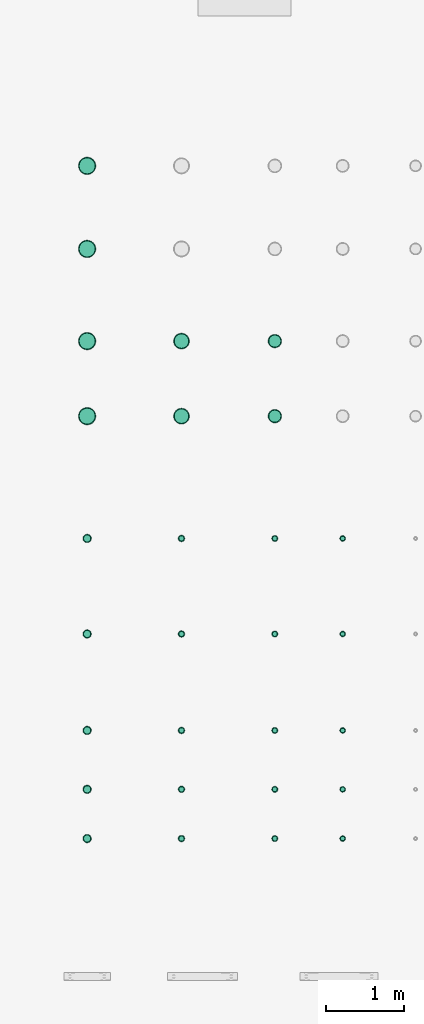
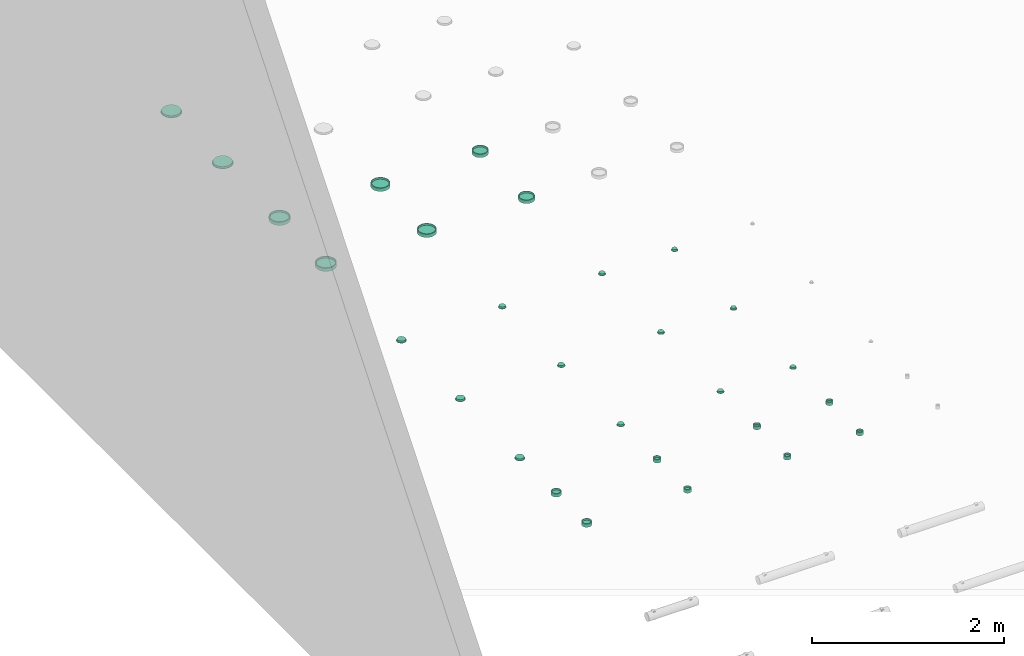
# One storey, part 17 of 197: 28 flow terminals.
"""IFC2X3 building model written with IfcOpenShell, lengths in metres."""

from ifc_helpers import new_model, entity, si_unit, converted_unit, direction, frame, frame_2d, origin, place, context, subcontext, project, spatial, circle, hollow_circle, extrude, source, transform, mapped, material, type_object, type_shapes, element, save


model = new_model("IFC2X3")

# Units and contexts
model_context = context("Model", 3, precision=1e-05, world=origin(), true_north=direction((6.123031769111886e-17, 1.0)))
body_context = subcontext(model_context, "Body", "Model", "MODEL_VIEW")
ifc_project = project(units=[si_unit("LENGTHUNIT", "METRE"), converted_unit("PLANEANGLEUNIT", "DEGREE", entity("IfcPlaneAngleMeasure", 0.017453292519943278), si_unit("PLANEANGLEUNIT", "RADIAN"), dimensions=[0, 0, 0, 0, 0, 0, 0]), si_unit("AREAUNIT", "SQUARE_METRE")], contexts=[model_context])

# Site, building, storey
site_placement = place(None, origin())
site = spatial("IfcSite", under=ifc_project, at=site_placement, Name="Default", CompositionType="ELEMENT")
building_placement = place(site_placement, origin())
building = spatial("IfcBuilding", under=site, at=building_placement, CompositionType="ELEMENT")
storey_placement = place(building_placement, origin())
storey = spatial("IfcBuildingStorey", under=building, at=storey_placement, Name="Niveau 0", CompositionType="ELEMENT", Elevation=0.0)

# Flow terminals
ifc_material = material(Name="<Unnamed>")
light_fixture_type_1 = type_object("IfcLightFixtureType", Name="Downlight encastré_saillie:ENCASTRE - Ø225", PredefinedType="NOTDEFINED", material=ifc_material)
shared_shape_1 = source(origin(), body_context, "Body", "SweptSolid", [
    extrude(hollow_circle(Radius=0.11249999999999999, WallThickness=0.009999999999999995, at=frame_2d((-1.6081382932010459e-18, -2.06728782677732e-16), x_axis=(1.0, 0.0))), frame((0.0, 0.0, 1.499), z_axis=(0.0, 0.0, 1.0), x_axis=(-1.0, 0.0, 0.0)), (0.0, 0.0, 1.0), 0.0010000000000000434),
    extrude(circle(Radius=0.1025, at=frame_2d((1.6081382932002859e-18, -1.6559331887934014e-16), x_axis=(1.0, 0.0))), frame((0.0, 0.0, 1.5000000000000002)), (0.0, 0.0, 1.0), 0.020000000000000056),
])
type_shapes(light_fixture_type_1, [shared_shape_1])
flow_terminal_1_placement = place(storey_placement, frame((-538.0227105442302, 32.229355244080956, 0.0)))
element("IfcFlowTerminal", 1, at=flow_terminal_1_placement, inside=storey, type_object=light_fixture_type_1, material=ifc_material, Name="Downlight encastré_saillie:ENCASTRE - Ø225", ObjectType="Downlight encastré_saillie:ENCASTRE - Ø225", context=body_context, shape_type="MappedRepresentation", body=[
    mapped(shared_shape_1, transform((0.0, 0.0, 0.0), scale=1.0)),
])
light_fixture_type_2 = type_object("IfcLightFixtureType", Name="Downlight encastré_saillie:ENCASTRE DALI - Ø225", PredefinedType="NOTDEFINED", material=ifc_material)
shared_shape_2 = source(origin(), body_context, "Body", "SweptSolid", [
    extrude(hollow_circle(Radius=0.11249999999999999, WallThickness=0.009999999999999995, at=frame_2d((-1.6081382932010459e-18, -2.06728782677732e-16), x_axis=(1.0, 0.0))), frame((0.0, 0.0, 1.499), z_axis=(0.0, 0.0, 1.0), x_axis=(-1.0, 0.0, 0.0)), (0.0, 0.0, 1.0), 0.0010000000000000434),
    extrude(circle(Radius=0.1025, at=frame_2d((1.6081382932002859e-18, -1.6559331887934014e-16), x_axis=(1.0, 0.0))), frame((0.0, 0.0, 1.5000000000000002)), (0.0, 0.0, 1.0), 0.020000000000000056),
])
type_shapes(light_fixture_type_2, [shared_shape_2])
flow_terminal_2_placement = place(storey_placement, frame((-538.0227105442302, 31.16135524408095, 0.0)))
element("IfcFlowTerminal", 2, at=flow_terminal_2_placement, inside=storey, type_object=light_fixture_type_2, material=ifc_material, Name="Downlight encastré_saillie:ENCASTRE DALI - Ø225", ObjectType="Downlight encastré_saillie:ENCASTRE DALI - Ø225", context=body_context, shape_type="MappedRepresentation", body=[
    mapped(shared_shape_2, transform((0.0, 0.0, 0.0), scale=1.0)),
])
light_fixture_type_3 = type_object("IfcLightFixtureType", Name="Spot encastré_saillie:ENCASTRE - Ø111", PredefinedType="NOTDEFINED", material=ifc_material)
shared_shape_3 = source(origin(), body_context, "Body", "SweptSolid", [
    extrude(hollow_circle(Radius=0.0555, WallThickness=0.009999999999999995, at=frame_2d((-1.6081382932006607e-18, -1.019861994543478e-16), x_axis=(1.0, 0.0))), frame((0.0, 0.0, 1.499), z_axis=(0.0, 0.0, 1.0), x_axis=(-1.0, 0.0, 0.0)), (0.0, 0.0, 1.0), 0.0010000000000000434),
    extrude(circle(Radius=0.045500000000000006, at=frame_2d((1.6081382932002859e-18, -7.35072781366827e-17), x_axis=(1.0, 0.0))), frame((0.0, 0.0, 1.5000000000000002)), (0.0, 0.0, 1.0), 0.020000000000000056),
])
type_shapes(light_fixture_type_3, [shared_shape_3])
flow_terminal_3_placement = place(storey_placement, frame((-538.0227105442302, 27.439355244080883, 0.0)))
element("IfcFlowTerminal", 3, at=flow_terminal_3_placement, inside=storey, type_object=light_fixture_type_3, material=ifc_material, Name="Spot encastré_saillie:ENCASTRE - Ø111", ObjectType="Spot encastré_saillie:ENCASTRE - Ø111", context=body_context, shape_type="MappedRepresentation", body=[
    mapped(shared_shape_3, transform((0.0, 0.0, 0.0), scale=1.0)),
])
light_fixture_type_4 = type_object("IfcLightFixtureType", Name="Spot encastré_saillie:ENCASTRE - Ø86", PredefinedType="NOTDEFINED", material=ifc_material)
shared_shape_4 = source(origin(), body_context, "Body", "SweptSolid", [
    extrude(hollow_circle(Radius=0.043000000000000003, WallThickness=0.010000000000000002, at=frame_2d((-1.6081382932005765e-18, -7.901633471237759e-17), x_axis=(1.0, 0.0))), frame((0.0, 0.0, 1.499), z_axis=(0.0, 0.0, 1.0), x_axis=(-1.0, 0.0, 0.0)), (0.0, 0.0, 1.0), 0.0010000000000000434),
    extrude(circle(Radius=0.033, at=frame_2d((1.6081382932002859e-18, -5.3312970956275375e-17), x_axis=(1.0, 0.0))), frame((0.0, 0.0, 1.5000000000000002)), (0.0, 0.0, 1.0), 0.020000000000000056),
])
type_shapes(light_fixture_type_4, [shared_shape_4])
flow_terminal_4_placement = place(storey_placement, frame((-536.8097105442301, 27.439355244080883, 0.0)))
element("IfcFlowTerminal", 4, at=flow_terminal_4_placement, inside=storey, type_object=light_fixture_type_4, material=ifc_material, Name="Spot encastré_saillie:ENCASTRE - Ø86", ObjectType="Spot encastré_saillie:ENCASTRE - Ø86", context=body_context, shape_type="MappedRepresentation", body=[
    mapped(shared_shape_4, transform((0.0, 0.0, 0.0), scale=1.0)),
])
light_fixture_type_5 = type_object("IfcLightFixtureType", Name="Spot encastré_saillie:ENCASTRE - Ø81", PredefinedType="NOTDEFINED", material=ifc_material)
shared_shape_5 = source(origin(), body_context, "Body", "SweptSolid", [
    extrude(hollow_circle(Radius=0.040499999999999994, WallThickness=0.009999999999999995, at=frame_2d((-1.6081382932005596e-18, -7.442236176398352e-17), x_axis=(1.0, 0.0))), frame((0.0, 0.0, 1.499), z_axis=(0.0, 0.0, 1.0), x_axis=(-1.0, 0.0, 0.0)), (0.0, 0.0, 1.0), 0.0010000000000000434),
    extrude(circle(Radius=0.0305, at=frame_2d((1.6081382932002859e-18, -4.92741095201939e-17), x_axis=(1.0, 0.0))), frame((0.0, 0.0, 1.5000000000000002)), (0.0, 0.0, 1.0), 0.020000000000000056),
])
type_shapes(light_fixture_type_5, [shared_shape_5])
flow_terminal_5_placement = place(storey_placement, frame((-535.6097105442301, 27.439355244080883, 0.0)))
element("IfcFlowTerminal", 5, at=flow_terminal_5_placement, inside=storey, type_object=light_fixture_type_5, material=ifc_material, Name="Spot encastré_saillie:ENCASTRE - Ø81", ObjectType="Spot encastré_saillie:ENCASTRE - Ø81", context=body_context, shape_type="MappedRepresentation", body=[
    mapped(shared_shape_5, transform((0.0, 0.0, 0.0), scale=1.0)),
])
light_fixture_type_6 = type_object("IfcLightFixtureType", Name="Spot encastré_saillie:ENCASTRE - Ø76", PredefinedType="NOTDEFINED", material=ifc_material)
shared_shape_6 = source(origin(), body_context, "Body", "SweptSolid", [
    extrude(hollow_circle(Radius=0.03799999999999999, WallThickness=0.009999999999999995, at=frame_2d((-1.6081382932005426e-18, -6.982838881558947e-17), x_axis=(1.0, 0.0))), frame((0.0, 0.0, 1.499), z_axis=(0.0, 0.0, 1.0), x_axis=(-1.0, 0.0, 0.0)), (0.0, 0.0, 1.0), 0.0010000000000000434),
    extrude(circle(Radius=0.028, at=frame_2d((1.6081382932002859e-18, -4.523524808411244e-17), x_axis=(1.0, 0.0))), frame((0.0, 0.0, 1.5000000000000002)), (0.0, 0.0, 1.0), 0.020000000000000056),
])
type_shapes(light_fixture_type_6, [shared_shape_6])
flow_terminal_6_placement = place(storey_placement, frame((-534.7377105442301, 27.439355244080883, 0.0)))
element("IfcFlowTerminal", 6, at=flow_terminal_6_placement, inside=storey, type_object=light_fixture_type_6, material=ifc_material, Name="Spot encastré_saillie:ENCASTRE - Ø76", ObjectType="Spot encastré_saillie:ENCASTRE - Ø76", context=body_context, shape_type="MappedRepresentation", body=[
    mapped(shared_shape_6, transform((0.0, 0.0, 0.0), scale=1.0)),
])
light_fixture_type_7 = type_object("IfcLightFixtureType", Name="Spot encastré_saillie:ENCASTRE DALI - Ø111", PredefinedType="NOTDEFINED", material=ifc_material)
shared_shape_7 = source(origin(), body_context, "Body", "SweptSolid", [
    extrude(hollow_circle(Radius=0.0555, WallThickness=0.009999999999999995, at=frame_2d((-1.6081382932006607e-18, -1.019861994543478e-16), x_axis=(1.0, 0.0))), frame((0.0, 0.0, 1.499), z_axis=(0.0, 0.0, 1.0), x_axis=(-1.0, 0.0, 0.0)), (0.0, 0.0, 1.0), 0.0010000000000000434),
    extrude(circle(Radius=0.045500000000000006, at=frame_2d((1.6081382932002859e-18, -7.35072781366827e-17), x_axis=(1.0, 0.0))), frame((0.0, 0.0, 1.5000000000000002)), (0.0, 0.0, 1.0), 0.020000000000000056),
])
type_shapes(light_fixture_type_7, [shared_shape_7])
flow_terminal_7_placement = place(storey_placement, frame((-538.0227105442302, 26.211355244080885, 0.0)))
element("IfcFlowTerminal", 7, at=flow_terminal_7_placement, inside=storey, type_object=light_fixture_type_7, material=ifc_material, Name="Spot encastré_saillie:ENCASTRE DALI - Ø111", ObjectType="Spot encastré_saillie:ENCASTRE DALI - Ø111", context=body_context, shape_type="MappedRepresentation", body=[
    mapped(shared_shape_7, transform((0.0, 0.0, 0.0), scale=1.0)),
])
light_fixture_type_8 = type_object("IfcLightFixtureType", Name="Spot encastré_saillie:ENCASTRE DALI - Ø86", PredefinedType="NOTDEFINED", material=ifc_material)
shared_shape_8 = source(origin(), body_context, "Body", "SweptSolid", [
    extrude(hollow_circle(Radius=0.043000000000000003, WallThickness=0.010000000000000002, at=frame_2d((-1.6081382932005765e-18, -7.901633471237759e-17), x_axis=(1.0, 0.0))), frame((0.0, 0.0, 1.499), z_axis=(0.0, 0.0, 1.0), x_axis=(-1.0, 0.0, 0.0)), (0.0, 0.0, 1.0), 0.0010000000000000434),
    extrude(circle(Radius=0.033, at=frame_2d((1.6081382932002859e-18, -5.3312970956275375e-17), x_axis=(1.0, 0.0))), frame((0.0, 0.0, 1.5000000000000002)), (0.0, 0.0, 1.0), 0.020000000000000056),
])
type_shapes(light_fixture_type_8, [shared_shape_8])
flow_terminal_8_placement = place(storey_placement, frame((-536.8097105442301, 26.211355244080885, 0.0)))
element("IfcFlowTerminal", 8, at=flow_terminal_8_placement, inside=storey, type_object=light_fixture_type_8, material=ifc_material, Name="Spot encastré_saillie:ENCASTRE DALI - Ø86", ObjectType="Spot encastré_saillie:ENCASTRE DALI - Ø86", context=body_context, shape_type="MappedRepresentation", body=[
    mapped(shared_shape_8, transform((0.0, 0.0, 0.0), scale=1.0)),
])
light_fixture_type_9 = type_object("IfcLightFixtureType", Name="Spot encastré_saillie:ENCASTRE DALI - Ø81", PredefinedType="NOTDEFINED", material=ifc_material)
shared_shape_9 = source(origin(), body_context, "Body", "SweptSolid", [
    extrude(hollow_circle(Radius=0.040499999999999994, WallThickness=0.009999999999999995, at=frame_2d((-1.6081382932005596e-18, -7.442236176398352e-17), x_axis=(1.0, 0.0))), frame((0.0, 0.0, 1.499), z_axis=(0.0, 0.0, 1.0), x_axis=(-1.0, 0.0, 0.0)), (0.0, 0.0, 1.0), 0.0010000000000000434),
    extrude(circle(Radius=0.0305, at=frame_2d((1.6081382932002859e-18, -4.92741095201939e-17), x_axis=(1.0, 0.0))), frame((0.0, 0.0, 1.5000000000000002)), (0.0, 0.0, 1.0), 0.020000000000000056),
])
type_shapes(light_fixture_type_9, [shared_shape_9])
flow_terminal_9_placement = place(storey_placement, frame((-535.6097105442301, 26.211355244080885, 0.0)))
element("IfcFlowTerminal", 9, at=flow_terminal_9_placement, inside=storey, type_object=light_fixture_type_9, material=ifc_material, Name="Spot encastré_saillie:ENCASTRE DALI - Ø81", ObjectType="Spot encastré_saillie:ENCASTRE DALI - Ø81", context=body_context, shape_type="MappedRepresentation", body=[
    mapped(shared_shape_9, transform((0.0, 0.0, 0.0), scale=1.0)),
])
light_fixture_type_10 = type_object("IfcLightFixtureType", Name="Spot encastré_saillie:ENCASTRE DALI - Ø76", PredefinedType="NOTDEFINED", material=ifc_material)
shared_shape_10 = source(origin(), body_context, "Body", "SweptSolid", [
    extrude(hollow_circle(Radius=0.03799999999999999, WallThickness=0.009999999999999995, at=frame_2d((-1.6081382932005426e-18, -6.982838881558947e-17), x_axis=(1.0, 0.0))), frame((0.0, 0.0, 1.499), z_axis=(0.0, 0.0, 1.0), x_axis=(-1.0, 0.0, 0.0)), (0.0, 0.0, 1.0), 0.0010000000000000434),
    extrude(circle(Radius=0.028, at=frame_2d((1.6081382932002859e-18, -4.523524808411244e-17), x_axis=(1.0, 0.0))), frame((0.0, 0.0, 1.5000000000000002)), (0.0, 0.0, 1.0), 0.020000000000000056),
])
type_shapes(light_fixture_type_10, [shared_shape_10])
flow_terminal_10_placement = place(storey_placement, frame((-534.7377105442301, 26.211355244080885, 0.0)))
element("IfcFlowTerminal", 10, at=flow_terminal_10_placement, inside=storey, type_object=light_fixture_type_10, material=ifc_material, Name="Spot encastré_saillie:ENCASTRE DALI - Ø76", ObjectType="Spot encastré_saillie:ENCASTRE DALI - Ø76", context=body_context, shape_type="MappedRepresentation", body=[
    mapped(shared_shape_10, transform((0.0, 0.0, 0.0), scale=1.0)),
])
light_fixture_type_11 = type_object("IfcLightFixtureType", Name="Spot encastré_saillie:ENCASTRE ETANCHE - Ø111", PredefinedType="NOTDEFINED", material=ifc_material)
shared_shape_11 = source(origin(), body_context, "Body", "SweptSolid", [
    extrude(hollow_circle(Radius=0.0555, WallThickness=0.009999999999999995, at=frame_2d((-1.6081382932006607e-18, -1.019861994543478e-16), x_axis=(1.0, 0.0))), frame((0.0, 0.0, 1.499), z_axis=(0.0, 0.0, 1.0), x_axis=(-1.0, 0.0, 0.0)), (0.0, 0.0, 1.0), 0.0010000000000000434),
    extrude(circle(Radius=0.045500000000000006, at=frame_2d((1.6081382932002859e-18, -7.35072781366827e-17), x_axis=(1.0, 0.0))), frame((0.0, 0.0, 1.5000000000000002)), (0.0, 0.0, 1.0), 0.020000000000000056),
])
type_shapes(light_fixture_type_11, [shared_shape_11])
flow_terminal_11_placement = place(storey_placement, frame((-538.0227105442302, 24.971355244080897, 0.0)))
element("IfcFlowTerminal", 11, at=flow_terminal_11_placement, inside=storey, type_object=light_fixture_type_11, material=ifc_material, Name="Spot encastré_saillie:ENCASTRE ETANCHE - Ø111", ObjectType="Spot encastré_saillie:ENCASTRE ETANCHE - Ø111", context=body_context, shape_type="MappedRepresentation", body=[
    mapped(shared_shape_11, transform((0.0, 0.0, 0.0), scale=1.0)),
])
light_fixture_type_12 = type_object("IfcLightFixtureType", Name="Spot encastré_saillie:ENCASTRE ETANCHE - Ø86", PredefinedType="NOTDEFINED", material=ifc_material)
shared_shape_12 = source(origin(), body_context, "Body", "SweptSolid", [
    extrude(hollow_circle(Radius=0.043000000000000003, WallThickness=0.010000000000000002, at=frame_2d((-1.6081382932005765e-18, -7.901633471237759e-17), x_axis=(1.0, 0.0))), frame((0.0, 0.0, 1.499), z_axis=(0.0, 0.0, 1.0), x_axis=(-1.0, 0.0, 0.0)), (0.0, 0.0, 1.0), 0.0010000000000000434),
    extrude(circle(Radius=0.033, at=frame_2d((1.6081382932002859e-18, -5.3312970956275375e-17), x_axis=(1.0, 0.0))), frame((0.0, 0.0, 1.5000000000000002)), (0.0, 0.0, 1.0), 0.020000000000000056),
])
type_shapes(light_fixture_type_12, [shared_shape_12])
flow_terminal_12_placement = place(storey_placement, frame((-536.8097105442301, 24.971355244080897, 0.0)))
element("IfcFlowTerminal", 12, at=flow_terminal_12_placement, inside=storey, type_object=light_fixture_type_12, material=ifc_material, Name="Spot encastré_saillie:ENCASTRE ETANCHE - Ø86", ObjectType="Spot encastré_saillie:ENCASTRE ETANCHE - Ø86", context=body_context, shape_type="MappedRepresentation", body=[
    mapped(shared_shape_12, transform((0.0, 0.0, 0.0), scale=1.0)),
])
light_fixture_type_13 = type_object("IfcLightFixtureType", Name="Spot encastré_saillie:ENCASTRE ETANCHE - Ø81", PredefinedType="NOTDEFINED", material=ifc_material)
shared_shape_13 = source(origin(), body_context, "Body", "SweptSolid", [
    extrude(hollow_circle(Radius=0.040499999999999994, WallThickness=0.009999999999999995, at=frame_2d((-1.6081382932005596e-18, -7.442236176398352e-17), x_axis=(1.0, 0.0))), frame((0.0, 0.0, 1.499), z_axis=(0.0, 0.0, 1.0), x_axis=(-1.0, 0.0, 0.0)), (0.0, 0.0, 1.0), 0.0010000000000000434),
    extrude(circle(Radius=0.0305, at=frame_2d((1.6081382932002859e-18, -4.92741095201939e-17), x_axis=(1.0, 0.0))), frame((0.0, 0.0, 1.5000000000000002)), (0.0, 0.0, 1.0), 0.020000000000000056),
])
type_shapes(light_fixture_type_13, [shared_shape_13])
flow_terminal_13_placement = place(storey_placement, frame((-535.6097105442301, 24.971355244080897, 0.0)))
element("IfcFlowTerminal", 13, at=flow_terminal_13_placement, inside=storey, type_object=light_fixture_type_13, material=ifc_material, Name="Spot encastré_saillie:ENCASTRE ETANCHE - Ø81", ObjectType="Spot encastré_saillie:ENCASTRE ETANCHE - Ø81", context=body_context, shape_type="MappedRepresentation", body=[
    mapped(shared_shape_13, transform((0.0, 0.0, 0.0), scale=1.0)),
])
light_fixture_type_14 = type_object("IfcLightFixtureType", Name="Spot encastré_saillie:ENCASTRE ETANCHE - Ø76", PredefinedType="NOTDEFINED", material=ifc_material)
shared_shape_14 = source(origin(), body_context, "Body", "SweptSolid", [
    extrude(hollow_circle(Radius=0.03799999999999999, WallThickness=0.009999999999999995, at=frame_2d((-1.6081382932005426e-18, -6.982838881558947e-17), x_axis=(1.0, 0.0))), frame((0.0, 0.0, 1.499), z_axis=(0.0, 0.0, 1.0), x_axis=(-1.0, 0.0, 0.0)), (0.0, 0.0, 1.0), 0.0010000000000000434),
    extrude(circle(Radius=0.028, at=frame_2d((1.6081382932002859e-18, -4.523524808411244e-17), x_axis=(1.0, 0.0))), frame((0.0, 0.0, 1.5000000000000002)), (0.0, 0.0, 1.0), 0.020000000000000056),
])
type_shapes(light_fixture_type_14, [shared_shape_14])
flow_terminal_14_placement = place(storey_placement, frame((-534.7377105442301, 24.971355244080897, 0.0)))
element("IfcFlowTerminal", 14, at=flow_terminal_14_placement, inside=storey, type_object=light_fixture_type_14, material=ifc_material, Name="Spot encastré_saillie:ENCASTRE ETANCHE - Ø76", ObjectType="Spot encastré_saillie:ENCASTRE ETANCHE - Ø76", context=body_context, shape_type="MappedRepresentation", body=[
    mapped(shared_shape_14, transform((0.0, 0.0, 0.0), scale=1.0)),
])
light_fixture_type_15 = type_object("IfcLightFixtureType", Name="Downlight encastré_saillie:SAILLIE - Ø175", PredefinedType="NOTDEFINED", material=ifc_material)
shared_shape_15 = source(origin(), body_context, "Body", "SweptSolid", [
    extrude(hollow_circle(Radius=0.0875, WallThickness=0.009999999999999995, at=frame_2d((1.6081382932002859e-18, 1.6078905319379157e-16), x_axis=(1.0, 0.0))), frame((0.0, 0.0, 1.5000000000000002)), (0.0, 0.0, 1.0), 0.04000000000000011),
    extrude(hollow_circle(Radius=0.0875, WallThickness=0.009999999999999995, at=frame_2d((-1.608138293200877e-18, -1.6078905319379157e-16), x_axis=(1.0, 0.0))), frame((0.0, 0.0, 1.499), z_axis=(0.0, 0.0, 1.0), x_axis=(-1.0, 0.0, 0.0)), (0.0, 0.0, 1.0), 0.0010000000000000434),
    extrude(circle(Radius=0.0775, at=frame_2d((1.6081382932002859e-18, -1.2520470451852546e-16), x_axis=(1.0, 0.0))), frame((0.0, 0.0, 1.5000000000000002)), (0.0, 0.0, 1.0), 0.020000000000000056),
])
type_shapes(light_fixture_type_15, [shared_shape_15])
flow_terminal_15_placement = place(storey_placement, frame((-535.6097105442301, 29.97635524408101, 0.0)))
element("IfcFlowTerminal", 15, at=flow_terminal_15_placement, inside=storey, type_object=light_fixture_type_15, material=ifc_material, Name="Downlight encastré_saillie:SAILLIE - Ø175", ObjectType="Downlight encastré_saillie:SAILLIE - Ø175", context=body_context, shape_type="MappedRepresentation", body=[
    mapped(shared_shape_15, transform((0.0, 0.0, 0.0), scale=1.0)),
])
light_fixture_type_16 = type_object("IfcLightFixtureType", Name="Downlight encastré_saillie:SAILLIE - Ø205", PredefinedType="NOTDEFINED", material=ifc_material)
shared_shape_16 = source(origin(), body_context, "Body", "SweptSolid", [
    extrude(hollow_circle(Radius=0.1025, WallThickness=0.009999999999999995, at=frame_2d((1.6081382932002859e-18, 1.8835289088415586e-16), x_axis=(1.0, 0.0))), frame((0.0, 0.0, 1.5000000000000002)), (0.0, 0.0, 1.0), 0.04000000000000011),
    extrude(hollow_circle(Radius=0.1025, WallThickness=0.009999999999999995, at=frame_2d((-1.6081382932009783e-18, -1.8835289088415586e-16), x_axis=(1.0, 0.0))), frame((0.0, 0.0, 1.499), z_axis=(0.0, 0.0, 1.0), x_axis=(-1.0, 0.0, 0.0)), (0.0, 0.0, 1.0), 0.0010000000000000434),
    extrude(circle(Radius=0.0925, at=frame_2d((1.6081382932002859e-18, -1.4943787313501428e-16), x_axis=(1.0, 0.0))), frame((0.0, 0.0, 1.5000000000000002)), (0.0, 0.0, 1.0), 0.020000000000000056),
])
type_shapes(light_fixture_type_16, [shared_shape_16])
flow_terminal_16_placement = place(storey_placement, frame((-536.8097105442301, 29.97635524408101, 0.0)))
element("IfcFlowTerminal", 16, at=flow_terminal_16_placement, inside=storey, type_object=light_fixture_type_16, material=ifc_material, Name="Downlight encastré_saillie:SAILLIE - Ø205", ObjectType="Downlight encastré_saillie:SAILLIE - Ø205", context=body_context, shape_type="MappedRepresentation", body=[
    mapped(shared_shape_16, transform((0.0, 0.0, 0.0), scale=1.0)),
])
light_fixture_type_17 = type_object("IfcLightFixtureType", Name="Downlight encastré_saillie:SAILLIE - Ø225", PredefinedType="NOTDEFINED", material=ifc_material)
shared_shape_17 = source(origin(), body_context, "Body", "SweptSolid", [
    extrude(hollow_circle(Radius=0.11249999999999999, WallThickness=0.009999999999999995, at=frame_2d((1.6081382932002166e-18, 1.5676874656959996e-16), x_axis=(1.0, 0.0))), frame((0.0, 0.0, 1.5000000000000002)), (0.0, 0.0, 1.0), 0.04000000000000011),
    extrude(hollow_circle(Radius=0.11249999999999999, WallThickness=0.009999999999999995, at=frame_2d((-1.6081382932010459e-18, -2.06728782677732e-16), x_axis=(1.0, 0.0))), frame((0.0, 0.0, 1.499), z_axis=(0.0, 0.0, 1.0), x_axis=(-1.0, 0.0, 0.0)), (0.0, 0.0, 1.0), 0.0010000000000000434),
    extrude(circle(Radius=0.1025, at=frame_2d((1.6081382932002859e-18, -1.6559331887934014e-16), x_axis=(1.0, 0.0))), frame((0.0, 0.0, 1.5000000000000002)), (0.0, 0.0, 1.0), 0.020000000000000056),
])
type_shapes(light_fixture_type_17, [shared_shape_17])
flow_terminal_17_placement = place(storey_placement, frame((-538.0227105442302, 29.97635524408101, 0.0)))
element("IfcFlowTerminal", 17, at=flow_terminal_17_placement, inside=storey, type_object=light_fixture_type_17, material=ifc_material, Name="Downlight encastré_saillie:SAILLIE - Ø225", ObjectType="Downlight encastré_saillie:SAILLIE - Ø225", context=body_context, shape_type="MappedRepresentation", body=[
    mapped(shared_shape_17, transform((0.0, 0.0, 0.0), scale=1.0)),
])
light_fixture_type_18 = type_object("IfcLightFixtureType", Name="Downlight encastré_saillie:SAILLIE DALI - Ø175", PredefinedType="NOTDEFINED", material=ifc_material)
shared_shape_18 = source(origin(), body_context, "Body", "SweptSolid", [
    extrude(hollow_circle(Radius=0.0875, WallThickness=0.009999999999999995, at=frame_2d((1.6081382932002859e-18, 1.6078905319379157e-16), x_axis=(1.0, 0.0))), frame((0.0, 0.0, 1.5000000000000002)), (0.0, 0.0, 1.0), 0.04000000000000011),
    extrude(hollow_circle(Radius=0.0875, WallThickness=0.009999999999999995, at=frame_2d((-1.608138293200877e-18, -1.6078905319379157e-16), x_axis=(1.0, 0.0))), frame((0.0, 0.0, 1.499), z_axis=(0.0, 0.0, 1.0), x_axis=(-1.0, 0.0, 0.0)), (0.0, 0.0, 1.0), 0.0010000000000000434),
    extrude(circle(Radius=0.0775, at=frame_2d((1.6081382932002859e-18, -1.2520470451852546e-16), x_axis=(1.0, 0.0))), frame((0.0, 0.0, 1.5000000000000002)), (0.0, 0.0, 1.0), 0.020000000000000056),
])
type_shapes(light_fixture_type_18, [shared_shape_18])
flow_terminal_18_placement = place(storey_placement, frame((-535.6097105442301, 29.011355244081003, 0.0)))
element("IfcFlowTerminal", 18, at=flow_terminal_18_placement, inside=storey, type_object=light_fixture_type_18, material=ifc_material, Name="Downlight encastré_saillie:SAILLIE DALI - Ø175", ObjectType="Downlight encastré_saillie:SAILLIE DALI - Ø175", context=body_context, shape_type="MappedRepresentation", body=[
    mapped(shared_shape_18, transform((0.0, 0.0, 0.0), scale=1.0)),
])
light_fixture_type_19 = type_object("IfcLightFixtureType", Name="Downlight encastré_saillie:SAILLIE DALI - Ø205", PredefinedType="NOTDEFINED", material=ifc_material)
shared_shape_19 = source(origin(), body_context, "Body", "SweptSolid", [
    extrude(hollow_circle(Radius=0.1025, WallThickness=0.009999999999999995, at=frame_2d((1.6081382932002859e-18, 1.8835289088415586e-16), x_axis=(1.0, 0.0))), frame((0.0, 0.0, 1.5000000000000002)), (0.0, 0.0, 1.0), 0.04000000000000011),
    extrude(hollow_circle(Radius=0.1025, WallThickness=0.009999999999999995, at=frame_2d((-1.6081382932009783e-18, -1.8835289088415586e-16), x_axis=(1.0, 0.0))), frame((0.0, 0.0, 1.499), z_axis=(0.0, 0.0, 1.0), x_axis=(-1.0, 0.0, 0.0)), (0.0, 0.0, 1.0), 0.0010000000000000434),
    extrude(circle(Radius=0.0925, at=frame_2d((1.6081382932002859e-18, -1.4943787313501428e-16), x_axis=(1.0, 0.0))), frame((0.0, 0.0, 1.5000000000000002)), (0.0, 0.0, 1.0), 0.020000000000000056),
])
type_shapes(light_fixture_type_19, [shared_shape_19])
flow_terminal_19_placement = place(storey_placement, frame((-536.8097105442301, 29.011355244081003, 0.0)))
element("IfcFlowTerminal", 19, at=flow_terminal_19_placement, inside=storey, type_object=light_fixture_type_19, material=ifc_material, Name="Downlight encastré_saillie:SAILLIE DALI - Ø205", ObjectType="Downlight encastré_saillie:SAILLIE DALI - Ø205", context=body_context, shape_type="MappedRepresentation", body=[
    mapped(shared_shape_19, transform((0.0, 0.0, 0.0), scale=1.0)),
])
light_fixture_type_20 = type_object("IfcLightFixtureType", Name="Downlight encastré_saillie:SAILLIE DALI - Ø225", PredefinedType="NOTDEFINED", material=ifc_material)
shared_shape_20 = source(origin(), body_context, "Body", "SweptSolid", [
    extrude(hollow_circle(Radius=0.11249999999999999, WallThickness=0.009999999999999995, at=frame_2d((1.6081382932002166e-18, 1.5676874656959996e-16), x_axis=(1.0, 0.0))), frame((0.0, 0.0, 1.5000000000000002)), (0.0, 0.0, 1.0), 0.04000000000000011),
    extrude(hollow_circle(Radius=0.11249999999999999, WallThickness=0.009999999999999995, at=frame_2d((-1.6081382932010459e-18, -2.06728782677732e-16), x_axis=(1.0, 0.0))), frame((0.0, 0.0, 1.499), z_axis=(0.0, 0.0, 1.0), x_axis=(-1.0, 0.0, 0.0)), (0.0, 0.0, 1.0), 0.0010000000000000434),
    extrude(circle(Radius=0.1025, at=frame_2d((1.6081382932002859e-18, -1.6559331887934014e-16), x_axis=(1.0, 0.0))), frame((0.0, 0.0, 1.5000000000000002)), (0.0, 0.0, 1.0), 0.020000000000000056),
])
type_shapes(light_fixture_type_20, [shared_shape_20])
flow_terminal_20_placement = place(storey_placement, frame((-538.0227105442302, 29.011355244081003, 0.0)))
element("IfcFlowTerminal", 20, at=flow_terminal_20_placement, inside=storey, type_object=light_fixture_type_20, material=ifc_material, Name="Downlight encastré_saillie:SAILLIE DALI - Ø225", ObjectType="Downlight encastré_saillie:SAILLIE DALI - Ø225", context=body_context, shape_type="MappedRepresentation", body=[
    mapped(shared_shape_20, transform((0.0, 0.0, 0.0), scale=1.0)),
])
light_fixture_type_21 = type_object("IfcLightFixtureType", Name="Spot encastré_saillie:SAILLIE - Ø76", PredefinedType="NOTDEFINED", material=ifc_material)
shared_shape_21 = source(origin(), body_context, "Body", "SweptSolid", [
    extrude(hollow_circle(Radius=0.03799999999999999, WallThickness=0.009999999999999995, at=frame_2d((1.6081382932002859e-18, 6.982838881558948e-17), x_axis=(1.0, 0.0))), frame((0.0, 0.0, 1.5000000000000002)), (0.0, 0.0, 1.0), 0.04000000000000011),
    extrude(hollow_circle(Radius=0.03799999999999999, WallThickness=0.009999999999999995, at=frame_2d((-1.6081382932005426e-18, -6.982838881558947e-17), x_axis=(1.0, 0.0))), frame((0.0, 0.0, 1.499), z_axis=(0.0, 0.0, 1.0), x_axis=(-1.0, 0.0, 0.0)), (0.0, 0.0, 1.0), 0.0010000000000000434),
    extrude(circle(Radius=0.028, at=frame_2d((1.6081382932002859e-18, -4.523524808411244e-17), x_axis=(1.0, 0.0))), frame((0.0, 0.0, 1.5000000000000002)), (0.0, 0.0, 1.0), 0.020000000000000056),
])
type_shapes(light_fixture_type_21, [shared_shape_21])
flow_terminal_21_placement = place(storey_placement, frame((-534.7377105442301, 24.21435524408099, 0.0)))
element("IfcFlowTerminal", 21, at=flow_terminal_21_placement, inside=storey, type_object=light_fixture_type_21, material=ifc_material, Name="Spot encastré_saillie:SAILLIE - Ø76", ObjectType="Spot encastré_saillie:SAILLIE - Ø76", context=body_context, shape_type="MappedRepresentation", body=[
    mapped(shared_shape_21, transform((0.0, 0.0, 0.0), scale=1.0)),
])
light_fixture_type_22 = type_object("IfcLightFixtureType", Name="Spot encastré_saillie:SAILLIE - Ø81", PredefinedType="NOTDEFINED", material=ifc_material)
shared_shape_22 = source(origin(), body_context, "Body", "SweptSolid", [
    extrude(hollow_circle(Radius=0.040499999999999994, WallThickness=0.009999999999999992, at=frame_2d((1.6081382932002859e-18, 7.442236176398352e-17), x_axis=(1.0, 0.0))), frame((0.0, 0.0, 1.5000000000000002)), (0.0, 0.0, 1.0), 0.04000000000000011),
    extrude(hollow_circle(Radius=0.040499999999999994, WallThickness=0.009999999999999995, at=frame_2d((-1.6081382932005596e-18, -7.442236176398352e-17), x_axis=(1.0, 0.0))), frame((0.0, 0.0, 1.499), z_axis=(0.0, 0.0, 1.0), x_axis=(-1.0, 0.0, 0.0)), (0.0, 0.0, 1.0), 0.0010000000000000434),
    extrude(circle(Radius=0.0305, at=frame_2d((1.6081382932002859e-18, -4.92741095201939e-17), x_axis=(1.0, 0.0))), frame((0.0, 0.0, 1.5000000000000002)), (0.0, 0.0, 1.0), 0.020000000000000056),
])
type_shapes(light_fixture_type_22, [shared_shape_22])
flow_terminal_22_placement = place(storey_placement, frame((-535.6097105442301, 24.21435524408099, 0.0)))
element("IfcFlowTerminal", 22, at=flow_terminal_22_placement, inside=storey, type_object=light_fixture_type_22, material=ifc_material, Name="Spot encastré_saillie:SAILLIE - Ø81", ObjectType="Spot encastré_saillie:SAILLIE - Ø81", context=body_context, shape_type="MappedRepresentation", body=[
    mapped(shared_shape_22, transform((0.0, 0.0, 0.0), scale=1.0)),
])
light_fixture_type_23 = type_object("IfcLightFixtureType", Name="Spot encastré_saillie:SAILLIE - Ø86", PredefinedType="NOTDEFINED", material=ifc_material)
shared_shape_23 = source(origin(), body_context, "Body", "SweptSolid", [
    extrude(hollow_circle(Radius=0.043000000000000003, WallThickness=0.009999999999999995, at=frame_2d((1.6081382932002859e-18, 7.901633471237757e-17), x_axis=(1.0, 0.0))), frame((0.0, 0.0, 1.5000000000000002)), (0.0, 0.0, 1.0), 0.04000000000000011),
    extrude(hollow_circle(Radius=0.043000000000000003, WallThickness=0.010000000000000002, at=frame_2d((-1.6081382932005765e-18, -7.901633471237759e-17), x_axis=(1.0, 0.0))), frame((0.0, 0.0, 1.499), z_axis=(0.0, 0.0, 1.0), x_axis=(-1.0, 0.0, 0.0)), (0.0, 0.0, 1.0), 0.0010000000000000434),
    extrude(circle(Radius=0.033, at=frame_2d((1.6081382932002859e-18, -5.3312970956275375e-17), x_axis=(1.0, 0.0))), frame((0.0, 0.0, 1.5000000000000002)), (0.0, 0.0, 1.0), 0.020000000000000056),
])
type_shapes(light_fixture_type_23, [shared_shape_23])
flow_terminal_23_placement = place(storey_placement, frame((-536.8097105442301, 24.21435524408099, 0.0)))
element("IfcFlowTerminal", 23, at=flow_terminal_23_placement, inside=storey, type_object=light_fixture_type_23, material=ifc_material, Name="Spot encastré_saillie:SAILLIE - Ø86", ObjectType="Spot encastré_saillie:SAILLIE - Ø86", context=body_context, shape_type="MappedRepresentation", body=[
    mapped(shared_shape_23, transform((0.0, 0.0, 0.0), scale=1.0)),
])
light_fixture_type_24 = type_object("IfcLightFixtureType", Name="Spot encastré_saillie:SAILLIE - Ø111", PredefinedType="NOTDEFINED", material=ifc_material)
shared_shape_24 = source(origin(), body_context, "Body", "SweptSolid", [
    extrude(hollow_circle(Radius=0.0555, WallThickness=0.009999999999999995, at=frame_2d((1.6081382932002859e-18, -7.733924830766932e-17), x_axis=(1.0, 0.0))), frame((0.0, 0.0, 1.5000000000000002)), (0.0, 0.0, 1.0), 0.04000000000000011),
    extrude(hollow_circle(Radius=0.0555, WallThickness=0.009999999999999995, at=frame_2d((-1.6081382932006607e-18, -1.019861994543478e-16), x_axis=(1.0, 0.0))), frame((0.0, 0.0, 1.499), z_axis=(0.0, 0.0, 1.0), x_axis=(-1.0, 0.0, 0.0)), (0.0, 0.0, 1.0), 0.0010000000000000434),
    extrude(circle(Radius=0.045500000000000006, at=frame_2d((1.6081382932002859e-18, -7.35072781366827e-17), x_axis=(1.0, 0.0))), frame((0.0, 0.0, 1.5000000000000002)), (0.0, 0.0, 1.0), 0.020000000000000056),
])
type_shapes(light_fixture_type_24, [shared_shape_24])
flow_terminal_24_placement = place(storey_placement, frame((-538.0227105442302, 24.21435524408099, 0.0)))
element("IfcFlowTerminal", 24, at=flow_terminal_24_placement, inside=storey, type_object=light_fixture_type_24, material=ifc_material, Name="Spot encastré_saillie:SAILLIE - Ø111", ObjectType="Spot encastré_saillie:SAILLIE - Ø111", context=body_context, shape_type="MappedRepresentation", body=[
    mapped(shared_shape_24, transform((0.0, 0.0, 0.0), scale=1.0)),
])
light_fixture_type_25 = type_object("IfcLightFixtureType", Name="Spot encastré_saillie:SAILLIE DALI - Ø76", PredefinedType="NOTDEFINED", material=ifc_material)
shared_shape_25 = source(origin(), body_context, "Body", "SweptSolid", [
    extrude(hollow_circle(Radius=0.03799999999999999, WallThickness=0.009999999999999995, at=frame_2d((1.6081382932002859e-18, 6.982838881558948e-17), x_axis=(1.0, 0.0))), frame((0.0, 0.0, 1.5000000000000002)), (0.0, 0.0, 1.0), 0.04000000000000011),
    extrude(hollow_circle(Radius=0.03799999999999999, WallThickness=0.009999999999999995, at=frame_2d((-1.6081382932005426e-18, -6.982838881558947e-17), x_axis=(1.0, 0.0))), frame((0.0, 0.0, 1.499), z_axis=(0.0, 0.0, 1.0), x_axis=(-1.0, 0.0, 0.0)), (0.0, 0.0, 1.0), 0.0010000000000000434),
    extrude(circle(Radius=0.028, at=frame_2d((1.6081382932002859e-18, -4.523524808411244e-17), x_axis=(1.0, 0.0))), frame((0.0, 0.0, 1.5000000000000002)), (0.0, 0.0, 1.0), 0.020000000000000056),
])
type_shapes(light_fixture_type_25, [shared_shape_25])
flow_terminal_25_placement = place(storey_placement, frame((-534.7377105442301, 23.58135524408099, 0.0)))
element("IfcFlowTerminal", 25, at=flow_terminal_25_placement, inside=storey, type_object=light_fixture_type_25, material=ifc_material, Name="Spot encastré_saillie:SAILLIE DALI - Ø76", ObjectType="Spot encastré_saillie:SAILLIE DALI - Ø76", context=body_context, shape_type="MappedRepresentation", body=[
    mapped(shared_shape_25, transform((0.0, 0.0, 0.0), scale=1.0)),
])
light_fixture_type_26 = type_object("IfcLightFixtureType", Name="Spot encastré_saillie:SAILLIE DALI - Ø81", PredefinedType="NOTDEFINED", material=ifc_material)
shared_shape_26 = source(origin(), body_context, "Body", "SweptSolid", [
    extrude(hollow_circle(Radius=0.040499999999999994, WallThickness=0.009999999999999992, at=frame_2d((1.6081382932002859e-18, 7.442236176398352e-17), x_axis=(1.0, 0.0))), frame((0.0, 0.0, 1.5000000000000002)), (0.0, 0.0, 1.0), 0.04000000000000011),
    extrude(hollow_circle(Radius=0.040499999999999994, WallThickness=0.009999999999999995, at=frame_2d((-1.6081382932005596e-18, -7.442236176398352e-17), x_axis=(1.0, 0.0))), frame((0.0, 0.0, 1.499), z_axis=(0.0, 0.0, 1.0), x_axis=(-1.0, 0.0, 0.0)), (0.0, 0.0, 1.0), 0.0010000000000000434),
    extrude(circle(Radius=0.0305, at=frame_2d((1.6081382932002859e-18, -4.92741095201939e-17), x_axis=(1.0, 0.0))), frame((0.0, 0.0, 1.5000000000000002)), (0.0, 0.0, 1.0), 0.020000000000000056),
])
type_shapes(light_fixture_type_26, [shared_shape_26])
flow_terminal_26_placement = place(storey_placement, frame((-535.6097105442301, 23.58135524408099, 0.0)))
element("IfcFlowTerminal", 26, at=flow_terminal_26_placement, inside=storey, type_object=light_fixture_type_26, material=ifc_material, Name="Spot encastré_saillie:SAILLIE DALI - Ø81", ObjectType="Spot encastré_saillie:SAILLIE DALI - Ø81", context=body_context, shape_type="MappedRepresentation", body=[
    mapped(shared_shape_26, transform((0.0, 0.0, 0.0), scale=1.0)),
])
light_fixture_type_27 = type_object("IfcLightFixtureType", Name="Spot encastré_saillie:SAILLIE DALI - Ø86", PredefinedType="NOTDEFINED", material=ifc_material)
shared_shape_27 = source(origin(), body_context, "Body", "SweptSolid", [
    extrude(hollow_circle(Radius=0.043000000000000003, WallThickness=0.009999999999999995, at=frame_2d((1.6081382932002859e-18, 7.901633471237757e-17), x_axis=(1.0, 0.0))), frame((0.0, 0.0, 1.5000000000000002)), (0.0, 0.0, 1.0), 0.04000000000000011),
    extrude(hollow_circle(Radius=0.043000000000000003, WallThickness=0.010000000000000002, at=frame_2d((-1.6081382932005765e-18, -7.901633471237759e-17), x_axis=(1.0, 0.0))), frame((0.0, 0.0, 1.499), z_axis=(0.0, 0.0, 1.0), x_axis=(-1.0, 0.0, 0.0)), (0.0, 0.0, 1.0), 0.0010000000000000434),
    extrude(circle(Radius=0.033, at=frame_2d((1.6081382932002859e-18, -5.3312970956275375e-17), x_axis=(1.0, 0.0))), frame((0.0, 0.0, 1.5000000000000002)), (0.0, 0.0, 1.0), 0.020000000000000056),
])
type_shapes(light_fixture_type_27, [shared_shape_27])
flow_terminal_27_placement = place(storey_placement, frame((-536.8097105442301, 23.58135524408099, 0.0)))
element("IfcFlowTerminal", 27, at=flow_terminal_27_placement, inside=storey, type_object=light_fixture_type_27, material=ifc_material, Name="Spot encastré_saillie:SAILLIE DALI - Ø86", ObjectType="Spot encastré_saillie:SAILLIE DALI - Ø86", context=body_context, shape_type="MappedRepresentation", body=[
    mapped(shared_shape_27, transform((0.0, 0.0, 0.0), scale=1.0)),
])
light_fixture_type_28 = type_object("IfcLightFixtureType", Name="Spot encastré_saillie:SAILLIE DALI - Ø111", PredefinedType="NOTDEFINED", material=ifc_material)
shared_shape_28 = source(origin(), body_context, "Body", "SweptSolid", [
    extrude(hollow_circle(Radius=0.0555, WallThickness=0.009999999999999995, at=frame_2d((1.6081382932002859e-18, -7.733924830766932e-17), x_axis=(1.0, 0.0))), frame((0.0, 0.0, 1.5000000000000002)), (0.0, 0.0, 1.0), 0.04000000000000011),
    extrude(hollow_circle(Radius=0.0555, WallThickness=0.009999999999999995, at=frame_2d((-1.6081382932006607e-18, -1.019861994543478e-16), x_axis=(1.0, 0.0))), frame((0.0, 0.0, 1.499), z_axis=(0.0, 0.0, 1.0), x_axis=(-1.0, 0.0, 0.0)), (0.0, 0.0, 1.0), 0.0010000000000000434),
    extrude(circle(Radius=0.045500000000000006, at=frame_2d((1.6081382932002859e-18, -7.35072781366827e-17), x_axis=(1.0, 0.0))), frame((0.0, 0.0, 1.5000000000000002)), (0.0, 0.0, 1.0), 0.020000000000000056),
])
type_shapes(light_fixture_type_28, [shared_shape_28])
flow_terminal_28_placement = place(storey_placement, frame((-538.0227105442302, 23.58135524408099, 0.0)))
element("IfcFlowTerminal", 28, at=flow_terminal_28_placement, inside=storey, type_object=light_fixture_type_28, material=ifc_material, Name="Spot encastré_saillie:SAILLIE DALI - Ø111", ObjectType="Spot encastré_saillie:SAILLIE DALI - Ø111", context=body_context, shape_type="MappedRepresentation", body=[
    mapped(shared_shape_28, transform((0.0, 0.0, 0.0), scale=1.0)),
])

save(model, "model.ifc")
